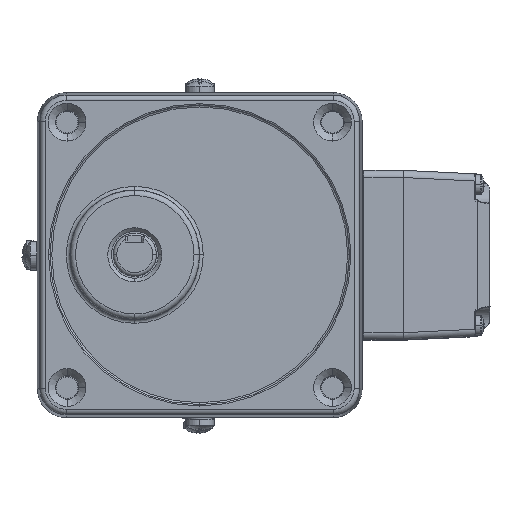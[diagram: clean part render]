
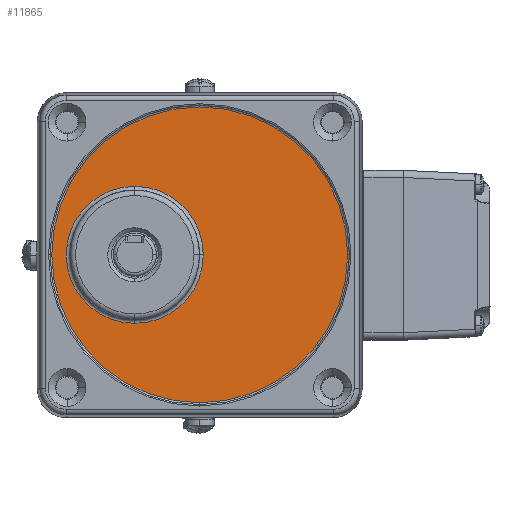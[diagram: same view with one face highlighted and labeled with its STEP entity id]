
A CAD part, top view. The second image highlights one B-rep face of the part: STEP entity #11865.
In plain terms, the highlighted planar face has unit normal (0, 0, 1) as drawn and (1, 0, 0) by its records, which use the part's own axes.
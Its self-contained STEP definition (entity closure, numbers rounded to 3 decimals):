
#52 = CARTESIAN_POINT ( 'NONE',  ( 2679.792, -774.175, 0. ) ) ;
#1339 = EDGE_LOOP ( 'NONE', ( #25504, #36523, #31991 ) ) ;
#1671 = EDGE_CURVE ( 'NONE', #57906, #21852, #29171, .T. ) ;
#3066 = DIRECTION ( 'NONE',  ( -1., 0., 0. ) ) ;
#4014 = CARTESIAN_POINT ( 'NONE',  ( 2679.792, -793.157, 18.983 ) ) ;
#4261 = CIRCLE ( 'NONE', #46698, 18.983 ) ;
#8159 = CARTESIAN_POINT ( 'NONE',  ( 2679.792, -775.157, 0. ) ) ;
#11188 = AXIS2_PLACEMENT_3D ( 'NONE', #39268, #30195, #45085 ) ;
#11865 = ADVANCED_FACE ( 'NONE', ( #15421, #55272 ), #35845, .T. ) ;
#12834 = VERTEX_POINT ( 'NONE', #40730 ) ;
#13406 = AXIS2_PLACEMENT_3D ( 'NONE', #35536, #55898, #61079 ) ;
#13988 = DIRECTION ( 'NONE',  ( 1., 0., 0. ) ) ;
#15421 = FACE_OUTER_BOUND ( 'NONE', #1339, .T. ) ;
#16198 = CARTESIAN_POINT ( 'NONE',  ( 2679.792, -775.157, 40.991 ) ) ;
#16373 = CIRCLE ( 'NONE', #52572, 40.991 ) ;
#17404 = AXIS2_PLACEMENT_3D ( 'NONE', #36801, #3066, #41956 ) ;
#19317 = DIRECTION ( 'NONE',  ( 1., 0., 0. ) ) ;
#19439 = CIRCLE ( 'NONE', #11188, 18.983 ) ;
#20442 = EDGE_CURVE ( 'NONE', #12834, #62885, #23654, .T. ) ;
#21852 = VERTEX_POINT ( 'NONE', #4014 ) ;
#23654 = CIRCLE ( 'NONE', #17404, 40.991 ) ;
#24041 = CARTESIAN_POINT ( 'NONE',  ( 2679.792, -793.157, -18.983 ) ) ;
#24154 = EDGE_CURVE ( 'NONE', #62885, #46858, #30129, .T. ) ;
#25504 = ORIENTED_EDGE ( 'NONE', *, *, #20442, .F. ) ;
#25580 = DIRECTION ( 'NONE',  ( 0., 0., 1. ) ) ;
#27010 = AXIS2_PLACEMENT_3D ( 'NONE', #8159, #31844, #57393 ) ;
#28226 = EDGE_LOOP ( 'NONE', ( #64046, #35084, #53790 ) ) ;
#28443 = CARTESIAN_POINT ( 'NONE',  ( 2679.792, -793.157, 0. ) ) ;
#28581 = DIRECTION ( 'NONE',  ( 0., 0., -1. ) ) ;
#29171 = CIRCLE ( 'NONE', #53982, 18.983 ) ;
#30129 = CIRCLE ( 'NONE', #27010, 40.991 ) ;
#30195 = DIRECTION ( 'NONE',  ( 1., 0., 0. ) ) ;
#31844 = DIRECTION ( 'NONE',  ( -1., 0., 0. ) ) ;
#31991 = ORIENTED_EDGE ( 'NONE', *, *, #24154, .F. ) ;
#32227 = CARTESIAN_POINT ( 'NONE',  ( 2679.792, -734.166, 0. ) ) ;
#35084 = ORIENTED_EDGE ( 'NONE', *, *, #55891, .F. ) ;
#35261 = EDGE_CURVE ( 'NONE', #56762, #57906, #19439, .T. ) ;
#35536 = CARTESIAN_POINT ( 'NONE',  ( 2679.792, -775.157, 0. ) ) ;
#35845 = PLANE ( 'NONE',  #13406 ) ;
#36523 = ORIENTED_EDGE ( 'NONE', *, *, #62127, .F. ) ;
#36801 = CARTESIAN_POINT ( 'NONE',  ( 2679.792, -775.157, 0. ) ) ;
#37349 = CARTESIAN_POINT ( 'NONE',  ( 2679.792, -793.157, 0. ) ) ;
#38479 = DIRECTION ( 'NONE',  ( 0., 0., 1. ) ) ;
#39268 = CARTESIAN_POINT ( 'NONE',  ( 2679.792, -793.157, 0. ) ) ;
#40730 = CARTESIAN_POINT ( 'NONE',  ( 2679.792, -775.157, -40.991 ) ) ;
#41956 = DIRECTION ( 'NONE',  ( 0., 0., -1. ) ) ;
#45085 = DIRECTION ( 'NONE',  ( 0., 0., -1. ) ) ;
#46698 = AXIS2_PLACEMENT_3D ( 'NONE', #28443, #19317, #38479 ) ;
#46858 = VERTEX_POINT ( 'NONE', #32227 ) ;
#52572 = AXIS2_PLACEMENT_3D ( 'NONE', #56004, #55068, #25580 ) ;
#53790 = ORIENTED_EDGE ( 'NONE', *, *, #1671, .F. ) ;
#53982 = AXIS2_PLACEMENT_3D ( 'NONE', #37349, #13988, #28581 ) ;
#55068 = DIRECTION ( 'NONE',  ( -1., 0., 0. ) ) ;
#55272 = FACE_BOUND ( 'NONE', #28226, .T. ) ;
#55891 = EDGE_CURVE ( 'NONE', #21852, #56762, #4261, .T. ) ;
#55898 = DIRECTION ( 'NONE',  ( 1., 0., 0. ) ) ;
#56004 = CARTESIAN_POINT ( 'NONE',  ( 2679.792, -775.157, 0. ) ) ;
#56762 = VERTEX_POINT ( 'NONE', #24041 ) ;
#57393 = DIRECTION ( 'NONE',  ( 0., 0., 1. ) ) ;
#57906 = VERTEX_POINT ( 'NONE', #52 ) ;
#61079 = DIRECTION ( 'NONE',  ( 0., 1., 0. ) ) ;
#62127 = EDGE_CURVE ( 'NONE', #46858, #12834, #16373, .T. ) ;
#62885 = VERTEX_POINT ( 'NONE', #16198 ) ;
#64046 = ORIENTED_EDGE ( 'NONE', *, *, #35261, .F. ) ;
